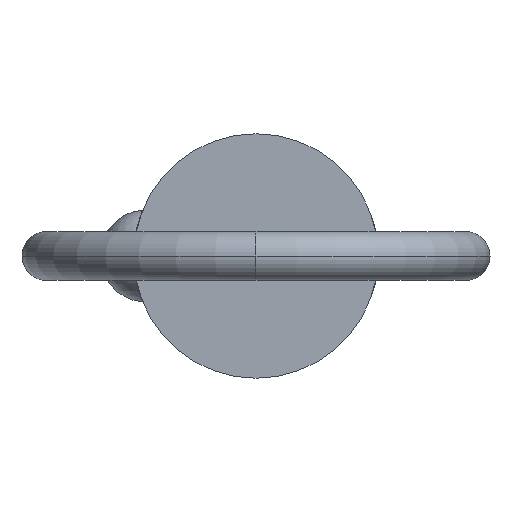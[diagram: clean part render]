
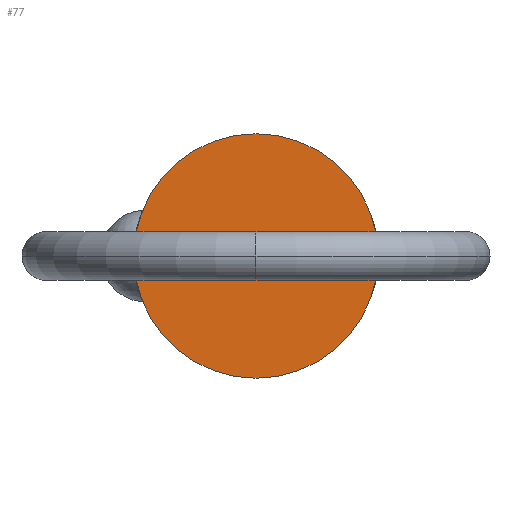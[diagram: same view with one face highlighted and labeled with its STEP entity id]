
A CAD part, left-side view. The second image highlights one B-rep face of the part: STEP entity #77.
In plain terms, the highlighted planar face has unit normal (-1, 0, 0).
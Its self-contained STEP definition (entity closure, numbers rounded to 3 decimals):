
#2 = DIRECTION ( 'NONE',  ( 1., 0., 0. ) ) ;
#10 = VERTEX_POINT ( 'NONE', #62 ) ;
#51 = AXIS2_PLACEMENT_3D ( 'NONE', #203, #847, #165 ) ;
#62 = CARTESIAN_POINT ( 'NONE',  ( 0., 0., -11.115 ) ) ;
#73 = DIRECTION ( 'NONE',  ( 0., 0., -1. ) ) ;
#77 = ADVANCED_FACE ( 'NONE', ( #909 ), #275, .T. ) ;
#151 = ORIENTED_EDGE ( 'NONE', *, *, #522, .F. ) ;
#165 = DIRECTION ( 'NONE',  ( 0., 0., 1. ) ) ;
#203 = CARTESIAN_POINT ( 'NONE',  ( 0., 0., 0. ) ) ;
#219 = CARTESIAN_POINT ( 'NONE',  ( 0., 0., 0. ) ) ;
#232 = DIRECTION ( 'NONE',  ( 0., 0., -1. ) ) ;
#275 = PLANE ( 'NONE',  #51 ) ;
#312 = AXIS2_PLACEMENT_3D ( 'NONE', #219, #2, #73 ) ;
#384 = CARTESIAN_POINT ( 'NONE',  ( 0., 0., 11.115 ) ) ;
#419 = ORIENTED_EDGE ( 'NONE', *, *, #823, .F. ) ;
#458 = AXIS2_PLACEMENT_3D ( 'NONE', #596, #737, #232 ) ;
#522 = EDGE_CURVE ( 'NONE', #10, #832, #804, .T. ) ;
#551 = EDGE_LOOP ( 'NONE', ( #151, #419 ) ) ;
#596 = CARTESIAN_POINT ( 'NONE',  ( 0., 0., 0. ) ) ;
#737 = DIRECTION ( 'NONE',  ( 1., 0., 0. ) ) ;
#804 = CIRCLE ( 'NONE', #312, 11.115 ) ;
#823 = EDGE_CURVE ( 'NONE', #832, #10, #858, .T. ) ;
#832 = VERTEX_POINT ( 'NONE', #384 ) ;
#847 = DIRECTION ( 'NONE',  ( -1., 0., 0. ) ) ;
#858 = CIRCLE ( 'NONE', #458, 11.115 ) ;
#909 = FACE_OUTER_BOUND ( 'NONE', #551, .T. ) ;
